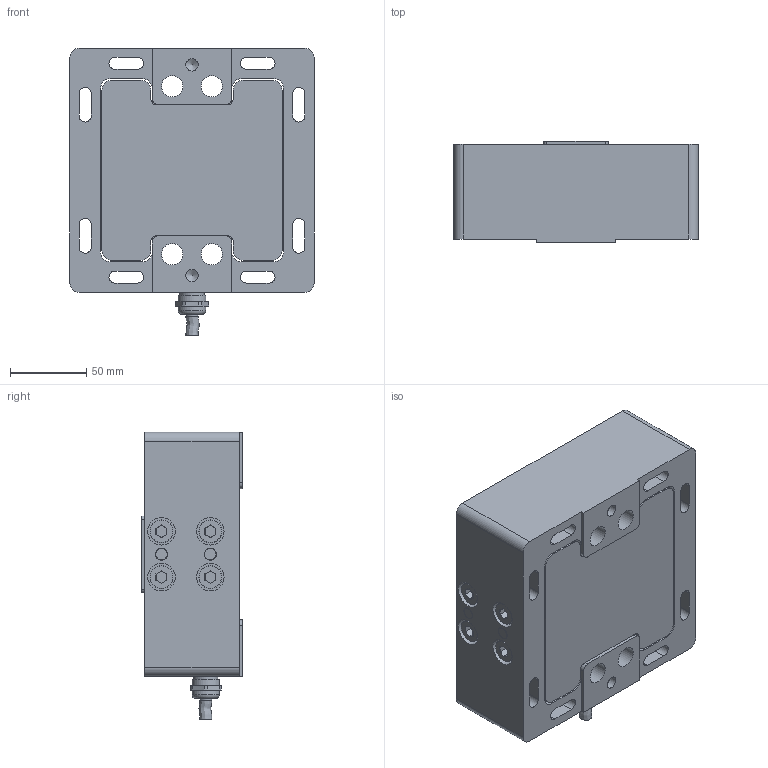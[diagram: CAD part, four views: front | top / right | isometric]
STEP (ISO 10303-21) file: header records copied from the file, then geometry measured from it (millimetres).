
FILE_DESCRIPTION(/* description */ ('Alibre Inc.'),/* implementation_level */ '2;1');
FILE_NAME(/* name */ 'export0',/* time_stamp */ '2014-09-04T13:44:08+02:00',/* author */ (''),/* organization */ (''),/* preprocessor_version */ 'ST-DEVELOPER v14',/* originating_system */ 'Alibre',/* authorisation */ '');
FILE_SCHEMA (('CONFIG_CONTROL_DESIGN'));
Length unit declared in the file: centimetre
Products named in the file (10): ID_1; ID_2
Bounding box: 160 x 66 x 188.5 mm (x, y, z)
Volume: 938085.1 mm3; surface area: 248300.3 mm2
Topology: 19 solids, 19 shells, 548 faces, 1329 edges, 856 vertices
Faces by surface type: plane 262, cylinder 229, cone 41, torus 9, bspline 7
Full cylindrical faces by diameter (mm): 2.459 x8, 8 x18, 8.376 x12, 10 x9, 11 x8, 14 x4, 14.376 x1, 15 x8, 16 x2, 18 x10, 20 x4, 24 x1
Entity records: 12385 total; most frequent: CARTESIAN_POINT 2176, DIRECTION 1741, ORIENTED_EDGE 1710, EDGE_CURVE 855, AXIS2_PLACEMENT_3D 699, VERTEX_POINT 639, FACE_BOUND 588, EDGE_LOOP 564
